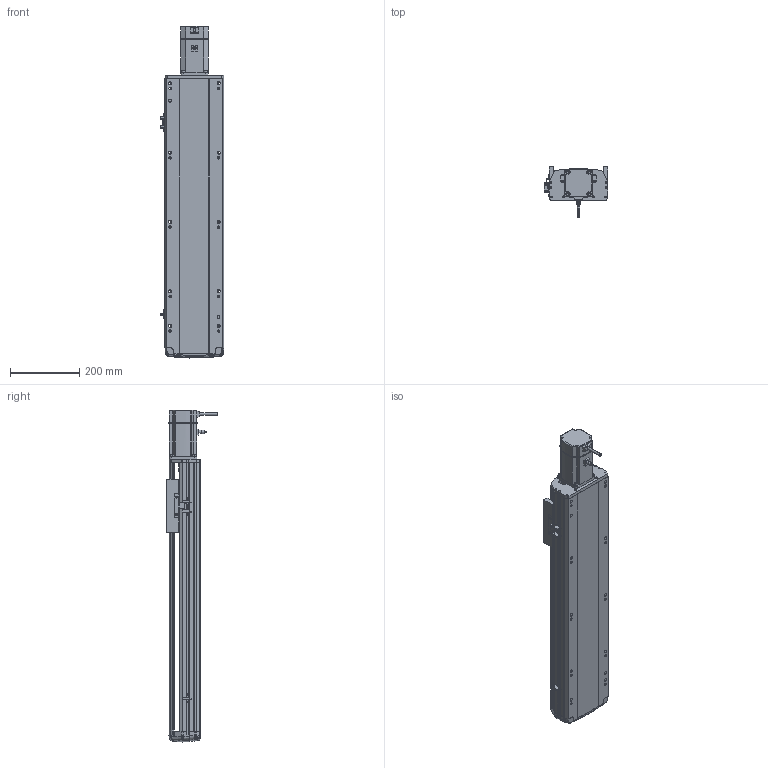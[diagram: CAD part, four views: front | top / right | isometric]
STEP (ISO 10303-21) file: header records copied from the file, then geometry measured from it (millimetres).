
FILE_DESCRIPTION (( 'STEP AP214' ), '1' );
FILE_NAME ('RTH17-XX-550-E-M75-C4.STEP', '2025-10-24T09:33:27', ( '' ), ( '' ), 'SwSTEP 2.0', 'SolidWorks 2018', '' );
FILE_SCHEMA (( 'AUTOMOTIVE_DESIGN' ));
Length unit declared in the file: millimetre
Products named in the file (9): N_RTH17-E-011底座^RTH17-XX-XX-E-M75-C4（方程式）; N_RTH17-E-007上盖^RTH17-XX-XX-E-M75-C4（方程式）; RTH17-XX-550-E-M75-C4; N_RTH17-GY-001P^RTH17-XX-XX-E-M75-C4（方程式）; N_RTH-L-012 感应片(外置)^RTH17-XX-XX-E-M75-C4（方程式）; N_M75^RTH17-XX-XX-E-M75-C4（方程式）; N_RTH17-E-008-P75电机板^RTH17-XX-XX-E-M75-C4（方程式）; N_RTH17-E-004丝杆螺母连接座^RTH17-XX-XX-E-M75-C4（方程式）; N_OMRON EE-SX672 換覜ん^RTH17-XX-XX-E-M75-C4ㄗ源最宒ㄘ
Assembly tree (10 placements, depth 2):
  RTH17-XX-550-E-M75-C4
    N_RTH17-E-011底座^RTH17-XX-XX-E-M75-C4（方程式）
    N_RTH17-E-007上盖^RTH17-XX-XX-E-M75-C4（方程式）
    N_M75^RTH17-XX-XX-E-M75-C4（方程式）
    N_RTH17-E-008-P75电机板^RTH17-XX-XX-E-M75-C4（方程式）
    N_OMRON EE-SX672 換覜ん^RTH17-XX-XX-E-M75-C4ㄗ源最宒ㄘ  x3
    N_RTH-L-012 感应片(外置)^RTH17-XX-XX-E-M75-C4（方程式）
    N_RTH17-E-004丝杆螺母连接座^RTH17-XX-XX-E-M75-C4（方程式）
    N_RTH17-GY-001P^RTH17-XX-XX-E-M75-C4（方程式）
Bounding box: 183.5 x 145.7 x 958.19 mm (x, y, z)
Volume: 7133050 mm3; surface area: 946647.4 mm2
Topology: 9 solids, 11 shells, 1764 faces, 4875 edges, 3158 vertices
Faces by surface type: plane 822, cylinder 528, bspline 377, cone 28, torus 9
Entity records: 51766 total; most frequent: CARTESIAN_POINT 20409, ORIENTED_EDGE 6774, DIRECTION 5687, EDGE_CURVE 3391, VERTEX_POINT 2194, AXIS2_PLACEMENT_3D 1931, VECTOR 1825, LINE 1825
